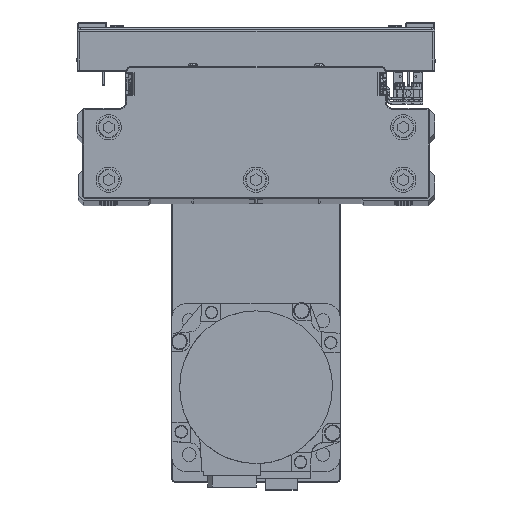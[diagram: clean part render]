
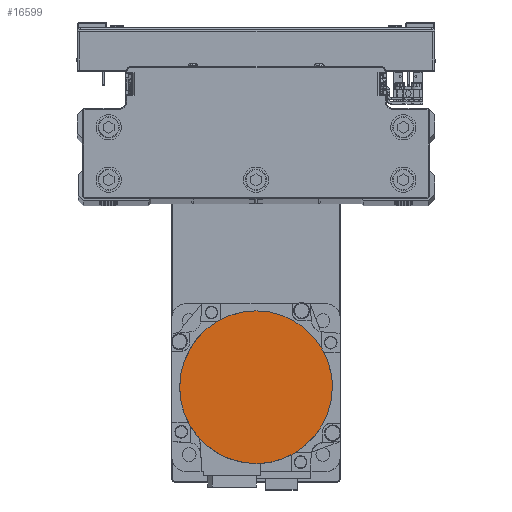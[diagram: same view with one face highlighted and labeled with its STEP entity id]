
A CAD part, top view. The second image highlights one B-rep face of the part: STEP entity #16599.
In plain terms, the highlighted planar face has unit normal (0, 0, 1) as drawn and (0, 0, -1) by its records, which use the part's own axes.
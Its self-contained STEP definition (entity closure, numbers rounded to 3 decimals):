
#463 = CARTESIAN_POINT ( 'NONE',  ( -22.143, 28.862, -122.2 ) ) ;
#1278 = CIRCLE ( 'NONE', #26937, 36.3 ) ;
#2156 = EDGE_CURVE ( 'NONE', #30315, #37099, #4260, .T. ) ;
#2672 = CARTESIAN_POINT ( 'NONE',  ( -28.862, -22.143, -122.2 ) ) ;
#2912 = AXIS2_PLACEMENT_3D ( 'NONE', #9004, #22993, #37021 ) ;
#3907 = CARTESIAN_POINT ( 'NONE',  ( -11.696, 34.446, -122.2 ) ) ;
#3915 = EDGE_CURVE ( 'NONE', #37099, #19135, #22722, .T. ) ;
#4132 = CARTESIAN_POINT ( 'NONE',  ( -36.3, 0., -122.2 ) ) ;
#4260 = B_SPLINE_CURVE_WITH_KNOTS ( 'NONE', 3,
 ( #41051, #9591, #23575, #37606, #6128, #20127, #34154, #2672, #16682, #30698, #44730, #13243, #27236, #41274, #9816, #23799, #37829, #6353 ),
 .UNSPECIFIED., .F., .F.,
 ( 4, 2, 2, 2, 2, 2, 2, 2, 4 ),
 ( 0., 0.125, 0.25, 0.375, 0.5, 0.625, 0.75, 0.875, 1. ),
 .UNSPECIFIED. ) ;
#5937 = CARTESIAN_POINT ( 'NONE',  ( 36.3, 0., -122.2 ) ) ;
#5964 = ORIENTED_EDGE ( 'NONE', *, *, #40334, .F. ) ;
#6128 = CARTESIAN_POINT ( 'NONE',  ( -34.446, -11.696, -122.2 ) ) ;
#6353 = CARTESIAN_POINT ( 'NONE',  ( 0., -36.3, -122.2 ) ) ;
#7362 = CARTESIAN_POINT ( 'NONE',  ( -2.376, 36.3, -122.2 ) ) ;
#7589 = CARTESIAN_POINT ( 'NONE',  ( -35.139, 9.412, -122.2 ) ) ;
#7732 = ORIENTED_EDGE ( 'NONE', *, *, #3915, .F. ) ;
#8312 = CARTESIAN_POINT ( 'NONE',  ( 0., 0., -122.2 ) ) ;
#8878 = CARTESIAN_POINT ( 'NONE',  ( 0., -36.3, -122.2 ) ) ;
#9004 = CARTESIAN_POINT ( 'NONE',  ( 0., 0., -122.2 ) ) ;
#9306 = CARTESIAN_POINT ( 'NONE',  ( 0., 0., -122.2 ) ) ;
#9591 = CARTESIAN_POINT ( 'NONE',  ( -36.3, -2.376, -122.2 ) ) ;
#9816 = CARTESIAN_POINT ( 'NONE',  ( -9.412, -35.139, -122.2 ) ) ;
#11043 = CARTESIAN_POINT ( 'NONE',  ( -31.502, 18.192, -122.2 ) ) ;
#13243 = CARTESIAN_POINT ( 'NONE',  ( -18.192, -31.502, -122.2 ) ) ;
#14477 = CARTESIAN_POINT ( 'NONE',  ( -23.988, 27.348, -122.2 ) ) ;
#16599 = ADVANCED_FACE ( 'NONE', ( #26735 ), #40766, .F. ) ;
#16682 = CARTESIAN_POINT ( 'NONE',  ( -27.348, -23.988, -122.2 ) ) ;
#17919 = CARTESIAN_POINT ( 'NONE',  ( -16.086, 32.628, -122.2 ) ) ;
#19046 = CARTESIAN_POINT ( 'NONE',  ( 0., 36.3, -122.2 ) ) ;
#19135 = VERTEX_POINT ( 'NONE', #5937 ) ;
#20127 = CARTESIAN_POINT ( 'NONE',  ( -32.628, -16.086, -122.2 ) ) ;
#20234 = VERTEX_POINT ( 'NONE', #19046 ) ;
#21354 = CARTESIAN_POINT ( 'NONE',  ( -4.752, 36.066, -122.2 ) ) ;
#21586 = CARTESIAN_POINT ( 'NONE',  ( -36.066, 4.752, -122.2 ) ) ;
#21630 = B_SPLINE_CURVE_WITH_KNOTS ( 'NONE', 3,
 ( #38834, #7362, #21354, #35383, #3907, #17919, #31930, #463, #14477, #28476, #42511, #11043, #25040, #39061, #7589, #21586, #35610, #4132 ),
 .UNSPECIFIED., .F., .F.,
 ( 4, 2, 2, 2, 2, 2, 2, 2, 4 ),
 ( 0., 0.125, 0.25, 0.375, 0.5, 0.625, 0.75, 0.875, 1. ),
 .UNSPECIFIED. ) ;
#22288 = DIRECTION ( 'NONE',  ( 0., 0., 1. ) ) ;
#22722 = CIRCLE ( 'NONE', #2912, 36.3 ) ;
#22993 = DIRECTION ( 'NONE',  ( 0., 0., 1. ) ) ;
#23298 = DIRECTION ( 'NONE',  ( 0., 0., 1. ) ) ;
#23575 = CARTESIAN_POINT ( 'NONE',  ( -36.066, -4.752, -122.2 ) ) ;
#23799 = CARTESIAN_POINT ( 'NONE',  ( -4.752, -36.066, -122.2 ) ) ;
#25040 = CARTESIAN_POINT ( 'NONE',  ( -32.628, 16.086, -122.2 ) ) ;
#26735 = FACE_OUTER_BOUND ( 'NONE', #32733, .T. ) ;
#26937 = AXIS2_PLACEMENT_3D ( 'NONE', #8312, #22288, #36318 ) ;
#27236 = CARTESIAN_POINT ( 'NONE',  ( -16.086, -32.628, -122.2 ) ) ;
#28476 = CARTESIAN_POINT ( 'NONE',  ( -27.348, 23.988, -122.2 ) ) ;
#28860 = EDGE_CURVE ( 'NONE', #19135, #20234, #1278, .T. ) ;
#30315 = VERTEX_POINT ( 'NONE', #40416 ) ;
#30698 = CARTESIAN_POINT ( 'NONE',  ( -23.988, -27.348, -122.2 ) ) ;
#31930 = CARTESIAN_POINT ( 'NONE',  ( -18.192, 31.502, -122.2 ) ) ;
#32733 = EDGE_LOOP ( 'NONE', ( #7732, #38961, #5964, #32961 ) ) ;
#32961 = ORIENTED_EDGE ( 'NONE', *, *, #28860, .F. ) ;
#34154 = CARTESIAN_POINT ( 'NONE',  ( -31.502, -18.192, -122.2 ) ) ;
#35383 = CARTESIAN_POINT ( 'NONE',  ( -9.412, 35.139, -122.2 ) ) ;
#35610 = CARTESIAN_POINT ( 'NONE',  ( -36.3, 2.376, -122.2 ) ) ;
#36318 = DIRECTION ( 'NONE',  ( -1., 0., 0. ) ) ;
#37021 = DIRECTION ( 'NONE',  ( -1., 0., 0. ) ) ;
#37099 = VERTEX_POINT ( 'NONE', #8878 ) ;
#37335 = DIRECTION ( 'NONE',  ( 1., 0., 0. ) ) ;
#37606 = CARTESIAN_POINT ( 'NONE',  ( -35.139, -9.412, -122.2 ) ) ;
#37829 = CARTESIAN_POINT ( 'NONE',  ( -2.376, -36.3, -122.2 ) ) ;
#38834 = CARTESIAN_POINT ( 'NONE',  ( 0., 36.3, -122.2 ) ) ;
#38961 = ORIENTED_EDGE ( 'NONE', *, *, #2156, .F. ) ;
#39061 = CARTESIAN_POINT ( 'NONE',  ( -34.446, 11.696, -122.2 ) ) ;
#40334 = EDGE_CURVE ( 'NONE', #20234, #30315, #21630, .T. ) ;
#40416 = CARTESIAN_POINT ( 'NONE',  ( -36.3, 0., -122.2 ) ) ;
#40766 = PLANE ( 'NONE',  #44462 ) ;
#41051 = CARTESIAN_POINT ( 'NONE',  ( -36.3, 0., -122.2 ) ) ;
#41274 = CARTESIAN_POINT ( 'NONE',  ( -11.696, -34.446, -122.2 ) ) ;
#42511 = CARTESIAN_POINT ( 'NONE',  ( -28.862, 22.143, -122.2 ) ) ;
#44462 = AXIS2_PLACEMENT_3D ( 'NONE', #9306, #23298, #37335 ) ;
#44730 = CARTESIAN_POINT ( 'NONE',  ( -22.143, -28.862, -122.2 ) ) ;
